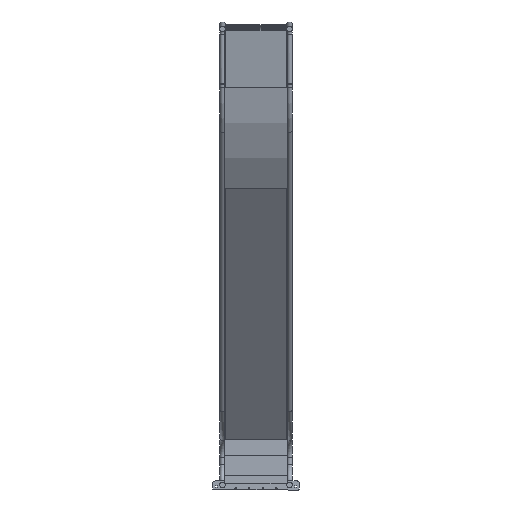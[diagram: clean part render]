
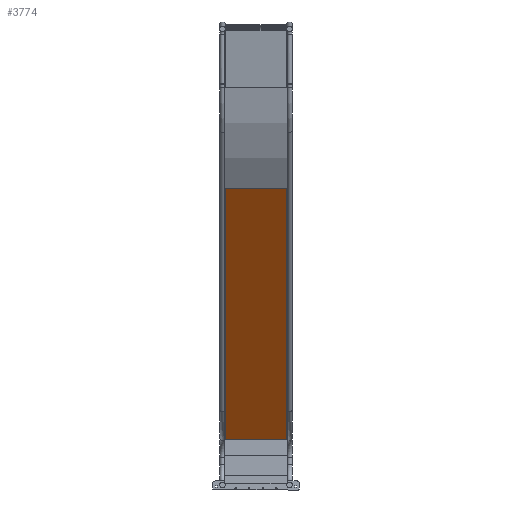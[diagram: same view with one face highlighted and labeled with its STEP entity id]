
A CAD part, left-side view. The second image highlights one B-rep face of the part: STEP entity #3774.
In plain terms, the highlighted planar face has unit normal (-0.788, 0, -0.616) as drawn and (0, 0, 1) by its records, which use the part's own axes.
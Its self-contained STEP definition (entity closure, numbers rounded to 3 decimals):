
#292=FACE_OUTER_BOUND('',#526,.T.);
#526=EDGE_LOOP('',(#2677,#2678,#2679,#2680,#2681,#2682,#2683,#2684));
#887=LINE('',#5790,#1257);
#905=LINE('',#5832,#1275);
#907=LINE('',#5836,#1277);
#922=LINE('',#5966,#1292);
#942=LINE('',#6014,#1312);
#943=LINE('',#6016,#1313);
#945=LINE('',#6020,#1315);
#947=LINE('',#6040,#1317);
#1257=VECTOR('',#4609,10.);
#1275=VECTOR('',#4651,10.);
#1277=VECTOR('',#4655,10.);
#1292=VECTOR('',#4682,10.);
#1312=VECTOR('',#4734,10.);
#1313=VECTOR('',#4737,10.);
#1315=VECTOR('',#4741,10.);
#1317=VECTOR('',#4749,10.);
#1624=VERTEX_POINT('',#5765);
#1629=VERTEX_POINT('',#5777);
#1642=VERTEX_POINT('',#5810);
#1646=VERTEX_POINT('',#5825);
#1647=VERTEX_POINT('',#5835);
#1653=VERTEX_POINT('',#5851);
#1671=VERTEX_POINT('',#6012);
#1672=VERTEX_POINT('',#6018);
#1966=EDGE_CURVE('',#1624,#1629,#887,.T.);
#1988=EDGE_CURVE('',#1642,#1646,#905,.T.);
#1990=EDGE_CURVE('',#1642,#1647,#907,.T.);
#2009=EDGE_CURVE('',#1624,#1653,#922,.T.);
#2033=EDGE_CURVE('',#1671,#1646,#942,.T.);
#2034=EDGE_CURVE('',#1647,#1653,#943,.T.);
#2036=EDGE_CURVE('',#1672,#1671,#945,.T.);
#2041=EDGE_CURVE('',#1672,#1629,#947,.T.);
#2677=ORIENTED_EDGE('',*,*,#1988,.T.);
#2678=ORIENTED_EDGE('',*,*,#2033,.F.);
#2679=ORIENTED_EDGE('',*,*,#2036,.F.);
#2680=ORIENTED_EDGE('',*,*,#2041,.T.);
#2681=ORIENTED_EDGE('',*,*,#1966,.F.);
#2682=ORIENTED_EDGE('',*,*,#2009,.T.);
#2683=ORIENTED_EDGE('',*,*,#2034,.F.);
#2684=ORIENTED_EDGE('',*,*,#1990,.F.);
#3615=PLANE('',#4222);
#3774=ADVANCED_FACE('',(#292),#3615,.F.);
#4222=AXIS2_PLACEMENT_3D('',#6133,#4759,#4760);
#4609=DIRECTION('',(0.,1.,0.));
#4651=DIRECTION('',(0.,1.,0.));
#4655=DIRECTION('',(-1.,0.,0.));
#4682=DIRECTION('',(1.,0.,0.));
#4734=DIRECTION('',(1.,0.,0.));
#4737=DIRECTION('',(0.,-1.,0.));
#4741=DIRECTION('',(0.,-1.,0.));
#4749=DIRECTION('',(-1.,0.,0.));
#4759=DIRECTION('center_axis',(0.,0.,-1.));
#4760=DIRECTION('ref_axis',(0.,1.,0.));
#5765=CARTESIAN_POINT('',(-2277.964,4.,-540.524));
#5777=CARTESIAN_POINT('',(-2277.964,427.476,-540.524));
#5790=CARTESIAN_POINT('',(-2277.964,-146.262,-540.524));
#5810=CARTESIAN_POINT('',(-97.342,5.765,-540.524));
#5825=CARTESIAN_POINT('',(-97.342,425.765,-540.524));
#5832=CARTESIAN_POINT('',(-97.342,320.765,-540.524));
#5835=CARTESIAN_POINT('',(-98.919,5.765,-540.524));
#5836=CARTESIAN_POINT('',(-97.009,5.765,-540.524));
#5851=CARTESIAN_POINT('',(-98.919,4.,-540.524));
#5966=CARTESIAN_POINT('',(-315.82,4.,-540.524));
#6012=CARTESIAN_POINT('',(-98.919,425.765,-540.524));
#6014=CARTESIAN_POINT('',(-98.919,425.765,-540.524));
#6016=CARTESIAN_POINT('',(-98.919,5.765,-540.524));
#6018=CARTESIAN_POINT('',(-98.919,427.476,-540.524));
#6020=CARTESIAN_POINT('',(-98.919,430.289,-540.524));
#6040=CARTESIAN_POINT('',(-152.797,427.476,-540.524));
#6133=CARTESIAN_POINT('Origin',(-206.675,215.765,-540.524));
